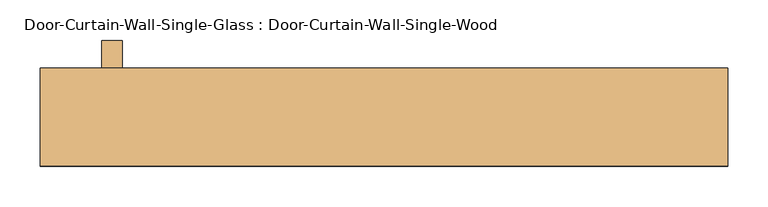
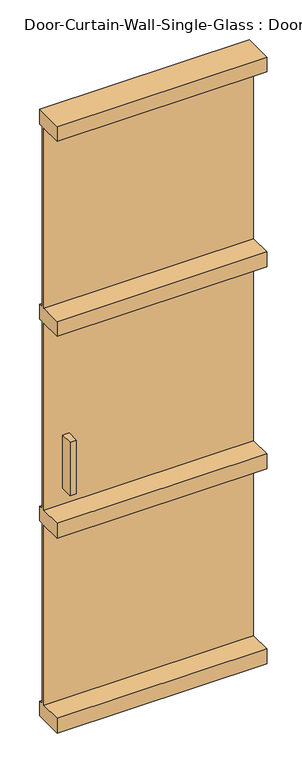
"""IFC4 building model written with IfcOpenShell, lengths in millimetres: door geometry, Door-Curtain-Wall-Single-Glass : Door-Curtain-Wall-Single-Wood."""

from ifc_helpers import new_model, si_unit, frame, origin, place, context, project, spatial, polyline, outline, extrude, source, transform, mapped, element, save


def door_curtain_wall_single_glass_door_curtain_wall_single_wood_7213060e(model_context):
    return source(origin(), model_context, "Body", "SweptSolid", [
        extrude(outline(polyline([(-323.8242905, -12.7), (-349.2242905, -12.7), (-349.2242905, 38.1), (-323.8242905, 38.1), (-323.8242905, -12.7)])), frame((0.0, 0.0, 965.2), z_axis=(0.0, 0.0, 1.0), x_axis=(1.0, 0.0, 0.0)), (0.0, 0.0, 1.0), 228.6),
        extrude(outline(polyline([(-349.2242905, 101.6), (-323.8242905, 101.6), (-323.8242905, 50.8), (-349.2242905, 50.8), (-349.2242905, 101.6)])), frame((0.0, 0.0, 965.2), z_axis=(0.0, 0.0, 1.0), x_axis=(1.0, 0.0, 0.0)), (0.0, 0.0, 1.0), 228.6),
        extrude(outline(polyline([(-54.4331618, 2597.7570075), (67.2601642, 2597.7570075), (67.2601642, 2534.2570075), (50.8, 2534.2570075), (50.8, 1762.7320075), (67.2601642, 1762.7320075), (67.2601642, 1699.2320075), (50.8, 1699.2320075), (50.8, 898.525), (67.2601642, 898.525), (67.2601642, 835.025), (50.8, 835.025), (50.8, 63.5), (67.2601642, 63.5), (67.2601642, 0.0), (-54.4331618, 0.0), (-54.4331618, 63.5), (38.1, 63.5), (38.1, 835.025), (-54.4331618, 835.025), (-54.4331618, 898.525), (38.1, 898.525), (38.1, 1699.2320075), (-54.4331618, 1699.2320075), (-54.4331618, 1762.7320075), (38.1, 1762.7320075), (38.1, 2534.2570075), (-54.4331618, 2534.2570075), (-54.4331618, 2597.7570075)])), frame((-425.4242905, 0.0, 0.0), z_axis=(1.0, 0.0, 0.0), x_axis=(0.0, 1.0, 0.0)), (0.0, 0.0, 1.0), 850.848581),
    ])


if __name__ == "__main__":
    model = new_model("IFC4")
    model_context = context("Model", 3, world=origin())
    ifc_project = project(units=[si_unit("LENGTHUNIT", "METRE", prefix="MILLI")], contexts=[model_context])
    site = spatial("IfcSite", under=ifc_project)
    building = spatial("IfcBuilding", under=site)
    placement = place(None, origin())
    door_curtain_wall_single_glass_door_curtain_wall_single_wood_shape = door_curtain_wall_single_glass_door_curtain_wall_single_wood_7213060e(model_context)
    element("IfcDoor", 1, ObjectType="Door-Curtain-Wall-Single-Glass : Door-Curtain-Wall-Single-Wood", at=placement, inside=building, context=model_context, shape_type="MappedRepresentation", body=[
        mapped(door_curtain_wall_single_glass_door_curtain_wall_single_wood_shape, transform((0.0, 0.0, 0.0), x_axis=(1.0, 0.0, 0.0), y_axis=(0.0, 1.0, 0.0), z_axis=(0.0, 0.0, 1.0))),
    ])
    save(model, "model.ifc")
